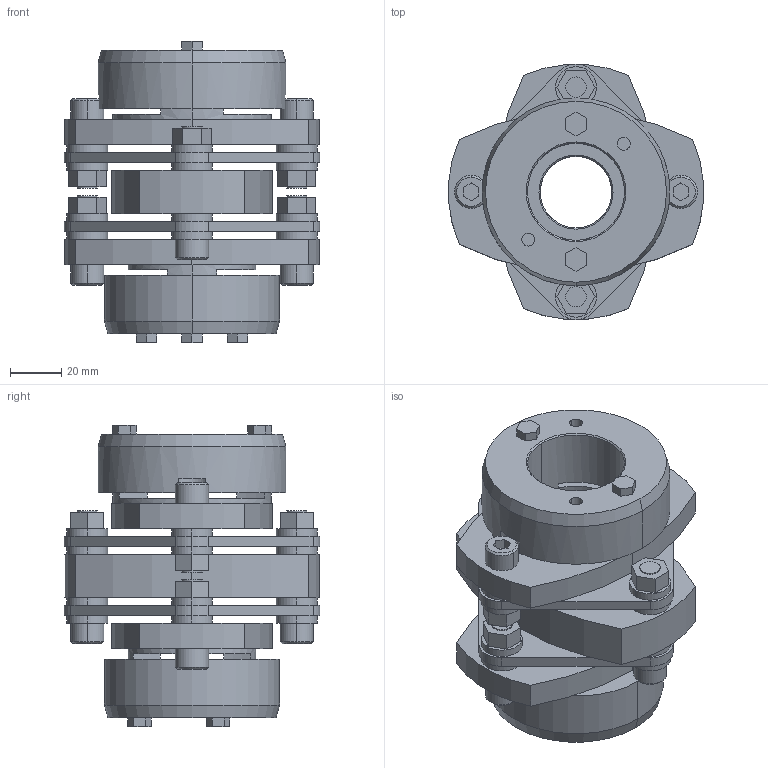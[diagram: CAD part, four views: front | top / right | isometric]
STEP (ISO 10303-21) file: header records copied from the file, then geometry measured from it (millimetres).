
FILE_DESCRIPTION((''),'2;1');
FILE_NAME('LCD-100T7-28×38.stp','2015-11-02T07:36:25',(''),(''),'AutoCAD STEP 2000i','AutoCAD 2000i',', , ');
FILE_SCHEMA(('CONFIG_CONTROL_DESIGN'));
Length unit declared in the file: millimetre
Products named in the file (11): LCD-100T7-28×38; 忣兜1; LC100T7-T028; LC100T7-T038; LC100T7-T035; LC100T7-T030; LC100T7-T025-1; LC100T7-T025; LC100T7-T022-1; LC100T7-T022; LCD100-ITA
Assembly tree (10 placements, depth 2):
  LCD-100T7-28×38
    忣兜1
    LC100T7-T028
    LC100T7-T038
    LC100T7-T035
    LC100T7-T030
    LC100T7-T025-1
    LC100T7-T025
    LC100T7-T022-1
    LC100T7-T022
    LCD100-ITA
Bounding box: 100 x 99.93 x 118 mm (x, y, z)
Volume: 362639 mm3; surface area: 91967.9 mm2
Topology: 1 solids, 1 shells, 317 faces, 774 edges, 508 vertices
Faces by surface type: plane 171, cylinder 122, cone 24
Entity records: 9651 total; most frequent: DIRECTION 1718, CARTESIAN_POINT 1610, ORIENTED_EDGE 1548, EDGE_CURVE 774, AXIS2_PLACEMENT_3D 616, VERTEX_POINT 508, VECTOR 486, LINE 486
